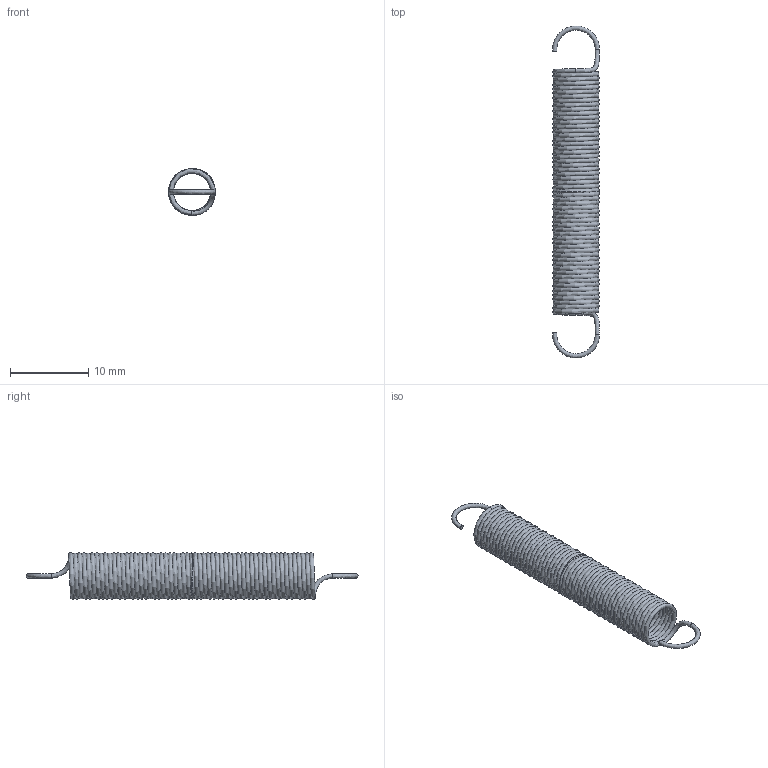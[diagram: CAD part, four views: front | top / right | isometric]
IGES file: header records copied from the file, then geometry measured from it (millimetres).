
Global section: file name: T20340; native system: Autodesk Inventor 2026; preprocessor: unknown; author: J. Iwanek; date: 20261005.100803; units: millimetre
Bounding box: 6 x 42.5 x 6 mm (x, y, z)
Volume: 236.4 mm3; surface area: 1719.9 mm2
Topology: 1 solids, 1 shells, 10 faces, 32 edges, 20 vertices
Faces by surface type: bspline 10
